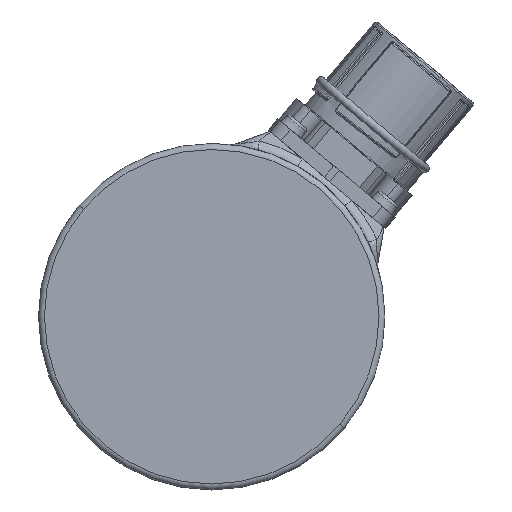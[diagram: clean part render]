
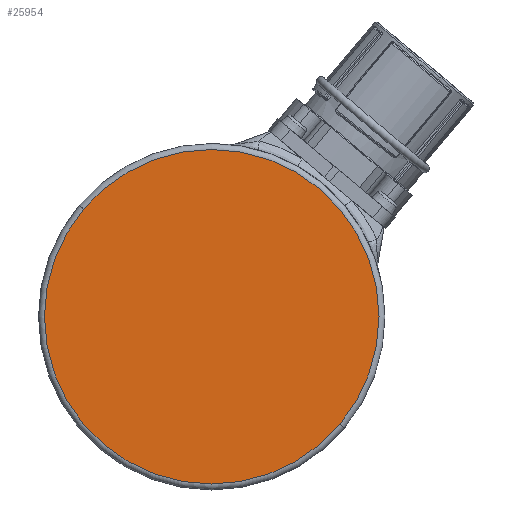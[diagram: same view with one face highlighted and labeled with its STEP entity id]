
A CAD part, left-side view. The second image highlights one B-rep face of the part: STEP entity #25954.
In plain terms, the highlighted planar face has unit normal (-1, 0, 0).
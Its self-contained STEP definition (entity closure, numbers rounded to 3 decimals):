
#729 = DIRECTION ( 'NONE',  ( 0., 0.766, 0.643 ) ) ;
#1663 = CARTESIAN_POINT ( 'NONE',  ( -33.95, 21.449, 17.998 ) ) ;
#3472 = DIRECTION ( 'NONE',  ( 1., 0., 0. ) ) ;
#4135 = DIRECTION ( 'NONE',  ( -1., 0., 0. ) ) ;
#4643 = VERTEX_POINT ( 'NONE', #13435 ) ;
#5066 = AXIS2_PLACEMENT_3D ( 'NONE', #28455, #14580, #729 ) ;
#5356 = FACE_OUTER_BOUND ( 'NONE', #14573, .T. ) ;
#13435 = CARTESIAN_POINT ( 'NONE',  ( -33.95, -21.449, -17.998 ) ) ;
#14239 = ORIENTED_EDGE ( 'NONE', *, *, #28496, .T. ) ;
#14573 = EDGE_LOOP ( 'NONE', ( #15499, #14239 ) ) ;
#14580 = DIRECTION ( 'NONE',  ( -1., 0., 0. ) ) ;
#15499 = ORIENTED_EDGE ( 'NONE', *, *, #18249, .T. ) ;
#17986 = CARTESIAN_POINT ( 'NONE',  ( -33.95, 0., 0. ) ) ;
#18249 = EDGE_CURVE ( 'NONE', #19918, #4643, #27678, .T. ) ;
#19651 = DIRECTION ( 'NONE',  ( 0., 0.766, 0.643 ) ) ;
#19918 = VERTEX_POINT ( 'NONE', #1663 ) ;
#20306 = DIRECTION ( 'NONE',  ( 0., 0.766, 0.643 ) ) ;
#23596 = CIRCLE ( 'NONE', #5066, 28. ) ;
#25954 = ADVANCED_FACE ( 'NONE', ( #5356 ), #26550, .F. ) ;
#26550 = PLANE ( 'NONE',  #28632 ) ;
#27678 = CIRCLE ( 'NONE', #28674, 28. ) ;
#28455 = CARTESIAN_POINT ( 'NONE',  ( -33.95, 0., 0. ) ) ;
#28496 = EDGE_CURVE ( 'NONE', #4643, #19918, #23596, .T. ) ;
#28632 = AXIS2_PLACEMENT_3D ( 'NONE', #28785, #3472, #19651 ) ;
#28674 = AXIS2_PLACEMENT_3D ( 'NONE', #17986, #4135, #20306 ) ;
#28785 = CARTESIAN_POINT ( 'NONE',  ( -33.95, 0., 0. ) ) ;
